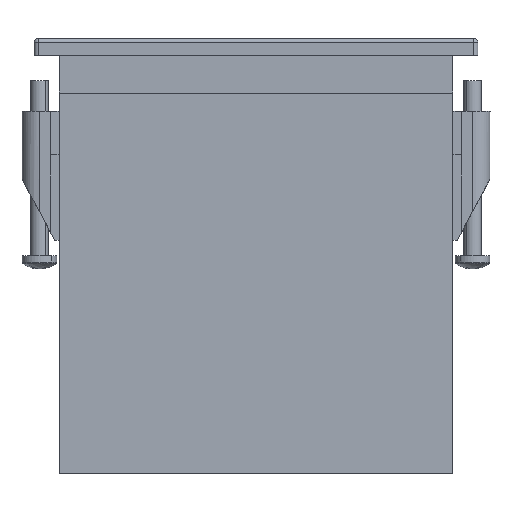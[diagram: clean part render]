
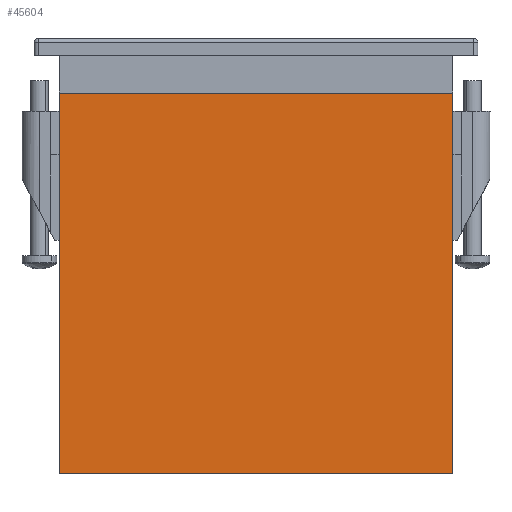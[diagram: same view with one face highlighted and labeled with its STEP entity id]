
A CAD part, front view. The second image highlights one B-rep face of the part: STEP entity #45604.
In plain terms, the highlighted planar face has unit normal (0, -1, 0).
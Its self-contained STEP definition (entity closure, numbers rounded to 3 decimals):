
#939 = DIRECTION ( 'NONE',  ( 0., 0., 1. ) ) ;
#1964 = EDGE_CURVE ( 'NONE', #12289, #15971, #21492, .T. ) ;
#3286 = VECTOR ( 'NONE', #15563, 1000. ) ;
#5505 = CARTESIAN_POINT ( 'NONE',  ( -45., -20.5, -99.5 ) ) ;
#6354 = DIRECTION ( 'NONE',  ( 0., 1., 0. ) ) ;
#7303 = VECTOR ( 'NONE', #39844, 1000. ) ;
#9069 = ORIENTED_EDGE ( 'NONE', *, *, #9524, .F. ) ;
#9524 = EDGE_CURVE ( 'NONE', #9925, #12289, #34741, .T. ) ;
#9925 = VERTEX_POINT ( 'NONE', #22022 ) ;
#10243 = ORIENTED_EDGE ( 'NONE', *, *, #43125, .T. ) ;
#10665 = DIRECTION ( 'NONE',  ( 0., 0., 1. ) ) ;
#11728 = ORIENTED_EDGE ( 'NONE', *, *, #1964, .F. ) ;
#11800 = CARTESIAN_POINT ( 'NONE',  ( 45., -20.5, -90.5 ) ) ;
#12289 = VERTEX_POINT ( 'NONE', #5505 ) ;
#14192 = AXIS2_PLACEMENT_3D ( 'NONE', #11800, #6354, #939 ) ;
#15563 = DIRECTION ( 'NONE',  ( 0., 0., 1. ) ) ;
#15730 = CARTESIAN_POINT ( 'NONE',  ( 45., -20.5, -12.5 ) ) ;
#15971 = VERTEX_POINT ( 'NONE', #20871 ) ;
#16071 = CARTESIAN_POINT ( 'NONE',  ( -45., -20.5, -90.5 ) ) ;
#17171 = PLANE ( 'NONE',  #14192 ) ;
#19826 = EDGE_LOOP ( 'NONE', ( #22673, #11728, #9069, #10243 ) ) ;
#20871 = CARTESIAN_POINT ( 'NONE',  ( -45., -20.5, -12.5 ) ) ;
#20959 = CARTESIAN_POINT ( 'NONE',  ( 45., -20.5, -90.5 ) ) ;
#21492 = LINE ( 'NONE', #16071, #37088 ) ;
#22022 = CARTESIAN_POINT ( 'NONE',  ( 45., -20.5, -99.5 ) ) ;
#22673 = ORIENTED_EDGE ( 'NONE', *, *, #33760, .T. ) ;
#23858 = DIRECTION ( 'NONE',  ( -1., 0., 0. ) ) ;
#25165 = FACE_OUTER_BOUND ( 'NONE', #19826, .T. ) ;
#26407 = LINE ( 'NONE', #20959, #3286 ) ;
#29287 = CARTESIAN_POINT ( 'NONE',  ( 45., -20.5, -99.5 ) ) ;
#33760 = EDGE_CURVE ( 'NONE', #49097, #15971, #50633, .T. ) ;
#34741 = LINE ( 'NONE', #29287, #52692 ) ;
#37088 = VECTOR ( 'NONE', #10665, 1000. ) ;
#39844 = DIRECTION ( 'NONE',  ( -1., 0., 0. ) ) ;
#43125 = EDGE_CURVE ( 'NONE', #9925, #49097, #26407, .T. ) ;
#45239 = CARTESIAN_POINT ( 'NONE',  ( 45., -20.5, -12.5 ) ) ;
#45604 = ADVANCED_FACE ( 'NONE', ( #25165 ), #17171, .F. ) ;
#49097 = VERTEX_POINT ( 'NONE', #15730 ) ;
#50633 = LINE ( 'NONE', #45239, #7303 ) ;
#52692 = VECTOR ( 'NONE', #23858, 1000. ) ;
